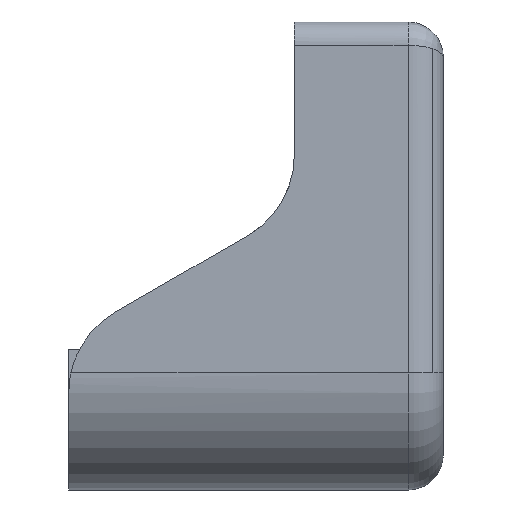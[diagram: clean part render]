
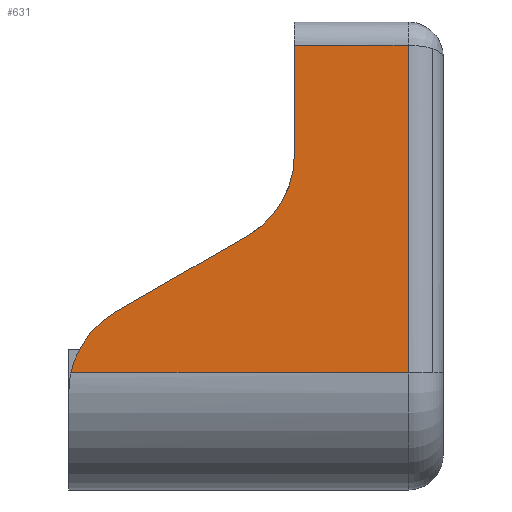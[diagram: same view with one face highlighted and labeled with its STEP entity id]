
A CAD part, left-side view. The second image highlights one B-rep face of the part: STEP entity #631.
In plain terms, the highlighted planar face has unit normal (-1, 0, 0).
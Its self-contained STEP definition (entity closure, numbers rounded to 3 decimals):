
#59 = VERTEX_POINT ( 'NONE', #9682 ) ;
#192 = LINE ( 'NONE', #3395, #6066 ) ;
#195 = VECTOR ( 'NONE', #6998, 1000. ) ;
#395 = DIRECTION ( 'NONE',  ( 0., 0., 1. ) ) ;
#411 = LINE ( 'NONE', #7646, #4737 ) ;
#575 = CARTESIAN_POINT ( 'NONE',  ( -95.25, 177.8, 20.459 ) ) ;
#606 = VERTEX_POINT ( 'NONE', #891 ) ;
#631 = ADVANCED_FACE ( 'NONE', ( #9637 ), #9583, .T. ) ;
#800 = ORIENTED_EDGE ( 'NONE', *, *, #5983, .F. ) ;
#891 = CARTESIAN_POINT ( 'NONE',  ( -95.25, 196.394, 1.865 ) ) ;
#952 = CARTESIAN_POINT ( 'NONE',  ( -95.25, 80.8, 105.33 ) ) ;
#1074 = EDGE_CURVE ( 'NONE', #4263, #7658, #3868, .T. ) ;
#1393 = LINE ( 'NONE', #8626, #195 ) ;
#1574 = CARTESIAN_POINT ( 'NONE',  ( -95.25, 0., -12.7 ) ) ;
#1795 = EDGE_CURVE ( 'NONE', #3913, #59, #7497, .T. ) ;
#2125 = DIRECTION ( 'NONE',  ( 1., 0., 0. ) ) ;
#2165 = EDGE_CURVE ( 'NONE', #7455, #8616, #6543, .T. ) ;
#2815 = CARTESIAN_POINT ( 'NONE',  ( -95.25, 152.4, -23.535 ) ) ;
#3395 = CARTESIAN_POINT ( 'NONE',  ( -95.25, 19.05, 19.05 ) ) ;
#3580 = VERTEX_POINT ( 'NONE', #575 ) ;
#3819 = ORIENTED_EDGE ( 'NONE', *, *, #4797, .T. ) ;
#3868 = LINE ( 'NONE', #10315, #7534 ) ;
#3913 = VERTEX_POINT ( 'NONE', #8993 ) ;
#4042 = ORIENTED_EDGE ( 'NONE', *, *, #6652, .T. ) ;
#4091 = DIRECTION ( 'NONE',  ( 0., 1., 0. ) ) ;
#4263 = VERTEX_POINT ( 'NONE', #5674 ) ;
#4394 = EDGE_LOOP ( 'NONE', ( #7221, #6449, #3819, #9000, #4042, #800, #5209, #5884 ) ) ;
#4476 = EDGE_CURVE ( 'NONE', #4263, #3913, #192, .T. ) ;
#4495 = DIRECTION ( 'NONE',  ( 1., 0., 0. ) ) ;
#4671 = DIRECTION ( 'NONE',  ( -1., 0., 0. ) ) ;
#4737 = VECTOR ( 'NONE', #10007, 1000. ) ;
#4797 = EDGE_CURVE ( 'NONE', #7658, #7455, #1393, .T. ) ;
#4902 = CIRCLE ( 'NONE', #6561, 50.8 ) ;
#5209 = ORIENTED_EDGE ( 'NONE', *, *, #5554, .F. ) ;
#5554 = EDGE_CURVE ( 'NONE', #59, #606, #4902, .T. ) ;
#5674 = CARTESIAN_POINT ( 'NONE',  ( -95.25, 19.05, 165.1 ) ) ;
#5827 = CARTESIAN_POINT ( 'NONE',  ( -95.25, 80.8, 165.1 ) ) ;
#5884 = ORIENTED_EDGE ( 'NONE', *, *, #1795, .F. ) ;
#5983 = EDGE_CURVE ( 'NONE', #606, #3580, #9747, .T. ) ;
#6066 = VECTOR ( 'NONE', #6483, 1000. ) ;
#6204 = CARTESIAN_POINT ( 'NONE',  ( -95.25, 152.4, -23.535 ) ) ;
#6449 = ORIENTED_EDGE ( 'NONE', *, *, #1074, .T. ) ;
#6483 = DIRECTION ( 'NONE',  ( 0., 0., -1. ) ) ;
#6543 = CIRCLE ( 'NONE', #9712, 50. ) ;
#6561 = AXIS2_PLACEMENT_3D ( 'NONE', #2815, #6801, #9943 ) ;
#6652 = EDGE_CURVE ( 'NONE', #8616, #3580, #411, .T. ) ;
#6801 = DIRECTION ( 'NONE',  ( 1., 0., 0. ) ) ;
#6998 = DIRECTION ( 'NONE',  ( 0., 0., -1. ) ) ;
#7221 = ORIENTED_EDGE ( 'NONE', *, *, #4476, .F. ) ;
#7455 = VERTEX_POINT ( 'NONE', #952 ) ;
#7497 = LINE ( 'NONE', #10015, #10226 ) ;
#7534 = VECTOR ( 'NONE', #10261, 1000. ) ;
#7646 = CARTESIAN_POINT ( 'NONE',  ( -95.25, 67.504, 84.139 ) ) ;
#7658 = VERTEX_POINT ( 'NONE', #5827 ) ;
#7808 = CARTESIAN_POINT ( 'NONE',  ( -95.25, 105.8, 62.029 ) ) ;
#7827 = DIRECTION ( 'NONE',  ( 0., 0.866, 0.5 ) ) ;
#8337 = DIRECTION ( 'NONE',  ( 0., 1., 0. ) ) ;
#8616 = VERTEX_POINT ( 'NONE', #7808 ) ;
#8626 = CARTESIAN_POINT ( 'NONE',  ( -95.25, 80.8, 177.8 ) ) ;
#8993 = CARTESIAN_POINT ( 'NONE',  ( -95.25, 19.05, -12.7 ) ) ;
#9000 = ORIENTED_EDGE ( 'NONE', *, *, #2165, .T. ) ;
#9040 = AXIS2_PLACEMENT_3D ( 'NONE', #1574, #4671, #4091 ) ;
#9353 = CARTESIAN_POINT ( 'NONE',  ( -95.25, 130.8, 105.33 ) ) ;
#9583 = PLANE ( 'NONE',  #9040 ) ;
#9637 = FACE_OUTER_BOUND ( 'NONE', #4394, .T. ) ;
#9682 = CARTESIAN_POINT ( 'NONE',  ( -95.25, 202.031, -12.7 ) ) ;
#9712 = AXIS2_PLACEMENT_3D ( 'NONE', #9353, #4495, #395 ) ;
#9747 = CIRCLE ( 'NONE', #9920, 50.8 ) ;
#9920 = AXIS2_PLACEMENT_3D ( 'NONE', #6204, #2125, #7827 ) ;
#9943 = DIRECTION ( 'NONE',  ( 0., 0.866, 0.5 ) ) ;
#10007 = DIRECTION ( 'NONE',  ( 0., 0.866, -0.5 ) ) ;
#10015 = CARTESIAN_POINT ( 'NONE',  ( -95.25, 0., -12.7 ) ) ;
#10226 = VECTOR ( 'NONE', #8337, 1000. ) ;
#10261 = DIRECTION ( 'NONE',  ( 0., 1., 0. ) ) ;
#10315 = CARTESIAN_POINT ( 'NONE',  ( -95.25, 0., 165.1 ) ) ;
